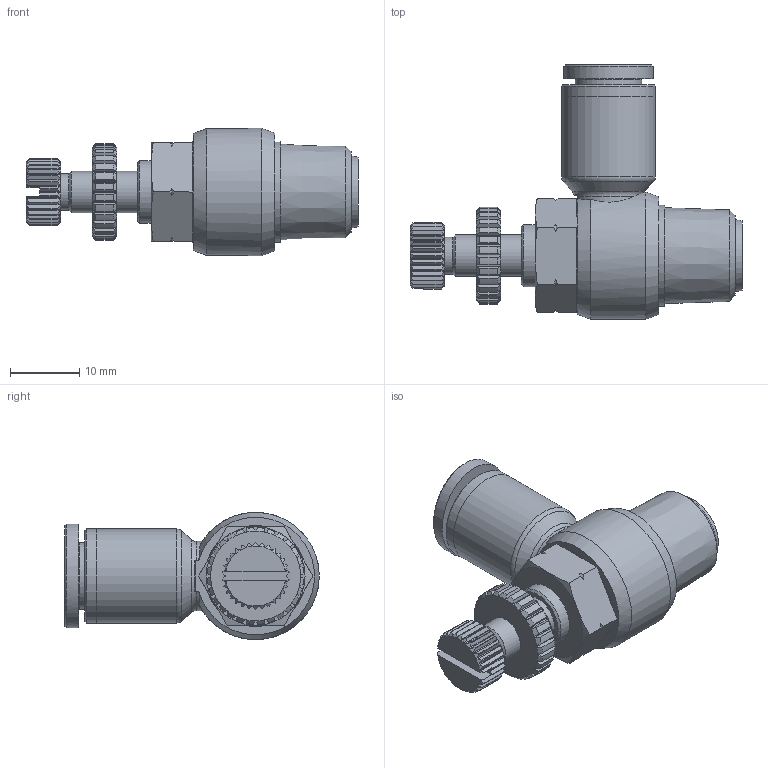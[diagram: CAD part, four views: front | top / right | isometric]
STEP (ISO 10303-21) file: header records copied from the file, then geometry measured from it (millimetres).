
FILE_DESCRIPTION((''),'2;1');
FILE_NAME('C:\Users\user0117\Desktop\김진일\홈페이지\5_16\Internet\G-FITTING INCH (STEP)\GNSE 5_16-N02U.stp','2020-03-02T15:55:11',('user0117'),(''),'Autodesk Inventor 2013','Autodesk Inventor 2013','');
FILE_SCHEMA(('AUTOMOTIVE_DESIGN { 1 0 10303 214 1 1 1 1 }'));
Length unit declared in the file: millimetre
Products named in the file (8): GNSE 5_16-N02U; NSE BODY N02(BRASS); G-COLLAR 5-16L; COLLAR G08L; SLEEVE G08; GNSE BODY 0802(PLASTIC); LOCK NUT 02; NEEDLE-02-O(BRASS)
Assembly tree (7 placements, depth 3):
  GNSE 5_16-N02U
    NSE BODY N02(BRASS)
    G-COLLAR 5-16L
      COLLAR G08L
      SLEEVE G08
    GNSE BODY 0802(PLASTIC)
    LOCK NUT 02
    NEEDLE-02-O(BRASS)
Bounding box: 48 x 36.8 x 18.4 mm (x, y, z)
Volume: 7314.5 mm3; surface area: 6845.5 mm2
Topology: 6 solids, 6 shells, 751 faces, 2060 edges, 1344 vertices
Faces by surface type: plane 520, cylinder 113, cone 94, bspline 20, torus 4
Full cylindrical faces by diameter (mm): 4.4 x1, 5.3 x1, 5.5 x1, 6 x2, 6.6 x1, 8.2 x3, 9 x2, 9.6 x1, 13.6 x2, 14.6 x2, 18.4 x1
Entity records: 24154 total; most frequent: CARTESIAN_POINT 6131, ORIENTED_EDGE 4026, DIRECTION 3358, EDGE_CURVE 2013, VERTEX_POINT 1335, VECTOR 1256, LINE 1256, AXIS2_PLACEMENT_3D 1051
